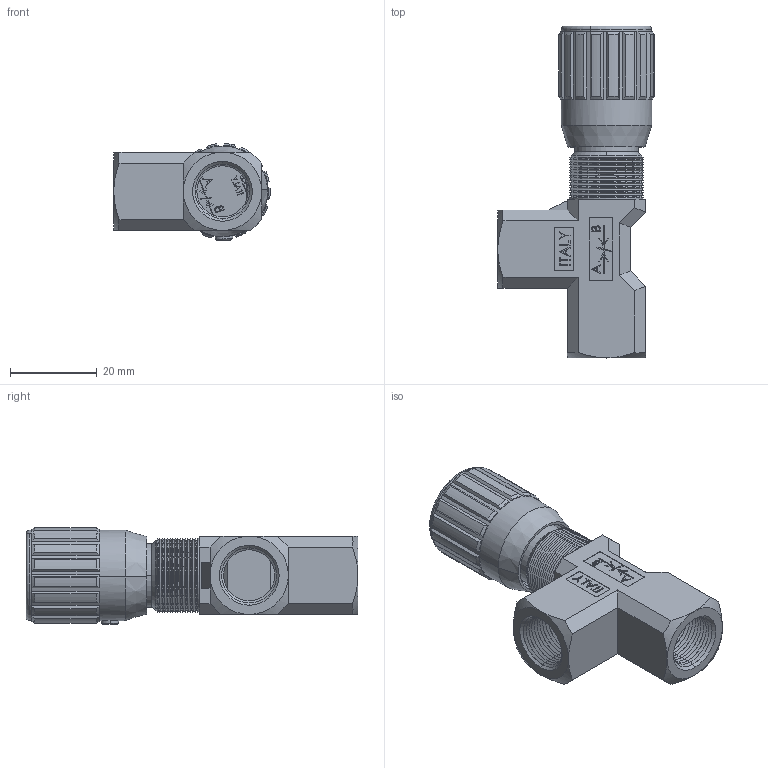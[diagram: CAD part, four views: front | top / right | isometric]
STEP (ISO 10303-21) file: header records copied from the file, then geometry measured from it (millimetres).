
FILE_DESCRIPTION (( 'STEP AP214' ), '1' );
FILE_NAME ('2252-2-14 VOLANTINO F-F.STEP', '2015-05-19T15:21:23', ( '' ), ( '' ), 'SwSTEP 2.0', 'SolidWorks 2014', '' );
FILE_SCHEMA (( 'AUTOMOTIVE_DESIGN' ));
Length unit declared in the file: millimetre
Products named in the file (1): 2252-2-14 VOLANTINO F-F
Bounding box: 36 x 76.3 x 22.29 mm (x, y, z)
Surface area: 8968.6 mm2 (no closed solid volume)
Topology: 0 solids, 27 shells, 537 faces, 1821 edges, 1267 vertices
Faces by surface type: plane 263, cone 182, cylinder 57, bspline 33, torus 2
Entity records: 28112 total; most frequent: CARTESIAN_POINT 6825, DIRECTION 3038, ORIENTED_EDGE 2998, EDGE_CURVE 1821, VERTEX_POINT 1267, VECTOR 1206, LINE 1206, AXIS2_PLACEMENT_3D 916
